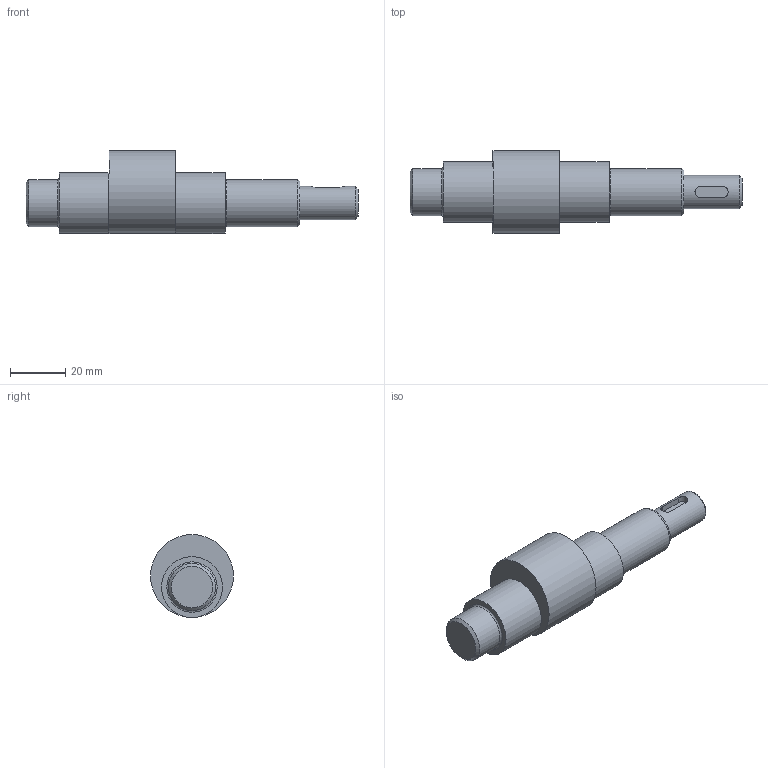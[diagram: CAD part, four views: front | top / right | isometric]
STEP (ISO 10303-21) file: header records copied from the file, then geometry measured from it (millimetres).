
FILE_DESCRIPTION(/* description */ (''),/* implementation_level */ '2;1');
FILE_NAME(/* name */ 'C:\Users\학생용.NET-PC.000\Desktop\390209E1014.stp',/* time_stamp */ '2019-02-16T11:17:40+09:00',/* author */ ('학생용'),/* organization */ (''),/* preprocessor_version */ 'ST-DEVELOPER v15.2',/* originating_system */ 'Autodesk Inventor 2014',/* authorisation */ '');
FILE_SCHEMA (('AUTOMOTIVE_DESIGN { 1 0 10303 214 3 1 1 }'));
Length unit declared in the file: millimetre
Products named in the file (1): 편심축
Bounding box: 120 x 30 x 30 mm (x, y, z)
Volume: 41623.9 mm3; surface area: 9093.5 mm2
Topology: 1 solids, 1 shells, 26 faces, 52 edges, 31 vertices
Faces by surface type: plane 10, cylinder 9, cone 5, torus 2
Full cylindrical faces by diameter (mm): 3.242 x1, 12 x1, 17 x2, 22 x2, 30 x1
Entity records: 617 total; most frequent: CARTESIAN_POINT 125, DIRECTION 106, ORIENTED_EDGE 68, AXIS2_PLACEMENT_3D 49, EDGE_LOOP 44, EDGE_CURVE 34, VERTEX_POINT 28, ADVANCED_FACE 26
